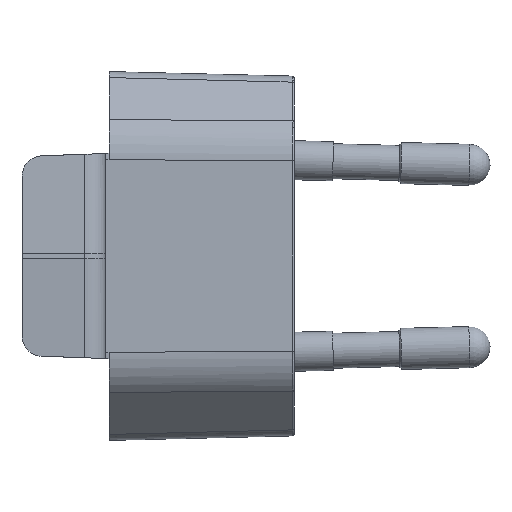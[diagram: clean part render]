
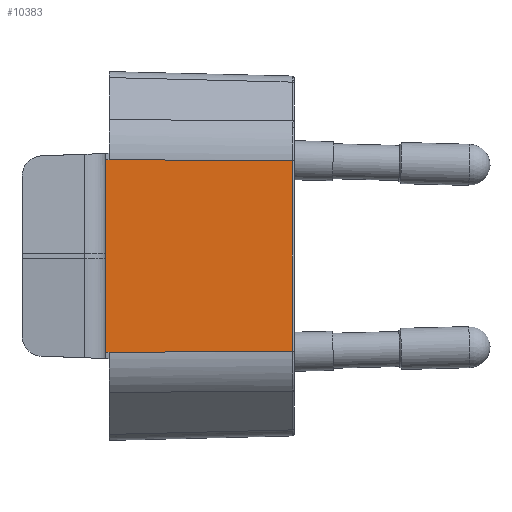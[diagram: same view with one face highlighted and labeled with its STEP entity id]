
A CAD part, left-side view. The second image highlights one B-rep face of the part: STEP entity #10383.
In plain terms, the highlighted planar face has unit normal (-1, -0.018, 0).
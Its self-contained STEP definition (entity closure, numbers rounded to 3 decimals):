
#645=FACE_OUTER_BOUND('',#1218,.T.);
#1218=EDGE_LOOP('',(#7339,#7340,#7341,#7342,#7343,#7344));
#1821=LINE('',#14691,#3046);
#2139=LINE('',#15540,#3364);
#2184=LINE('',#15701,#3409);
#2185=LINE('',#15702,#3410);
#2186=LINE('',#15704,#3411);
#2187=LINE('',#15705,#3412);
#3046=VECTOR('',#11802,18.464);
#3364=VECTOR('',#12222,18.721);
#3409=VECTOR('',#12325,17.807);
#3410=VECTOR('',#12326,0.35);
#3411=VECTOR('',#12327,0.35);
#3412=VECTOR('',#12328,17.807);
#4270=VERTEX_POINT('',#14688);
#4271=VERTEX_POINT('',#14690);
#4597=VERTEX_POINT('',#15537);
#4598=VERTEX_POINT('',#15539);
#4642=VERTEX_POINT('',#15700);
#4643=VERTEX_POINT('',#15703);
#5309=EDGE_CURVE('',#4270,#4271,#1821,.T.);
#5662=EDGE_CURVE('',#4598,#4597,#2139,.T.);
#5724=EDGE_CURVE('',#4270,#4642,#2184,.T.);
#5725=EDGE_CURVE('',#4642,#4598,#2185,.T.);
#5726=EDGE_CURVE('',#4597,#4643,#2186,.T.);
#5727=EDGE_CURVE('',#4271,#4643,#2187,.T.);
#7339=ORIENTED_EDGE('',*,*,#5309,.F.);
#7340=ORIENTED_EDGE('',*,*,#5724,.T.);
#7341=ORIENTED_EDGE('',*,*,#5725,.T.);
#7342=ORIENTED_EDGE('',*,*,#5662,.T.);
#7343=ORIENTED_EDGE('',*,*,#5726,.T.);
#7344=ORIENTED_EDGE('',*,*,#5727,.F.);
#9975=PLANE('',#11003);
#10383=ADVANCED_FACE('',(#645),#9975,.T.);
#11003=AXIS2_PLACEMENT_3D('',#15699,#12323,#12324);
#11802=DIRECTION('',(0.,0.,-1.));
#12222=DIRECTION('',(0.,0.,-1.));
#12323=DIRECTION('center_axis',(-1.,-0.017,
0.));
#12324=DIRECTION('ref_axis',(0.017,-1.,0.));
#12325=DIRECTION('',(-0.017,1.,0.007));
#12326=DIRECTION('',(-0.017,1.,0.));
#12327=DIRECTION('',(0.017,-1.,0.));
#12328=DIRECTION('',(-0.017,1.,-0.007));
#14688=CARTESIAN_POINT('',(-20.789,-30.853,9.232));
#14690=CARTESIAN_POINT('',(-20.789,-30.853,-9.232));
#14691=CARTESIAN_POINT('',(-20.789,-30.853,9.483));
#15537=CARTESIAN_POINT('',(-21.106,-12.7,-9.36));
#15539=CARTESIAN_POINT('',(-21.106,-12.7,9.36));
#15540=CARTESIAN_POINT('',(-21.106,-12.7,-24.329));
#15699=CARTESIAN_POINT('Origin',(-21.1,-13.05,-12.345));
#15700=CARTESIAN_POINT('',(-21.1,-13.05,9.361));
#15701=CARTESIAN_POINT('',(-20.789,-30.853,9.232));
#15702=CARTESIAN_POINT('',(-21.1,-13.05,9.361));
#15703=CARTESIAN_POINT('',(-21.1,-13.05,-9.36));
#15704=CARTESIAN_POINT('',(-21.106,-12.7,-9.36));
#15705=CARTESIAN_POINT('',(-21.848,29.784,-9.67));
